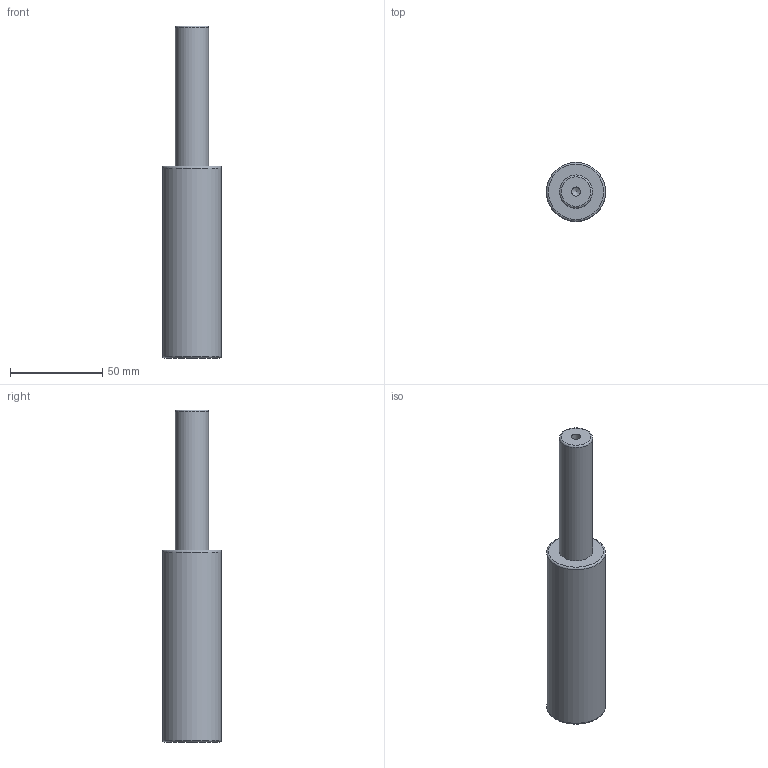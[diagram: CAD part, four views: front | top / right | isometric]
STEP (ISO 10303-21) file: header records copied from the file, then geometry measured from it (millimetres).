
FILE_DESCRIPTION(/* description */ (''),/* implementation_level */ '2;1');
FILE_NAME(/* name */ 'NV5-SMLX.32x75.stp',/* time_stamp */ '2018-08-31T16:08:36+02:00',/* author */ (''),/* organization */ (''),/* preprocessor_version */ 'ST-DEVELOPER v16',/* originating_system */ 'SIEMENS PLM Software NX 10.0',/* authorisation */ '');
FILE_SCHEMA (('AUTOMOTIVE_DESIGN { 1 0 10303 214 3 1 1 1 }'));
Length unit declared in the file: millimetre
Products named in the file (1): NV5-SMLX.32x75
Bounding box: 32 x 32 x 180 mm (x, y, z)
Volume: 102475.4 mm3; surface area: 16601.6 mm2
Topology: 1 solids, 1 shells, 12 faces, 24 edges, 15 vertices
Faces by surface type: cylinder 4, torus 3, plane 3, cone 2
Full cylindrical faces by diameter (mm): 5 x2, 18 x1, 32 x1
Entity records: 266 total; most frequent: DIRECTION 48, CARTESIAN_POINT 37, FACE_BOUND 24, AXIS2_PLACEMENT_3D 24, EDGE_LOOP 22, ORIENTED_EDGE 22, VERTEX_POINT 13, ADVANCED_FACE 12
